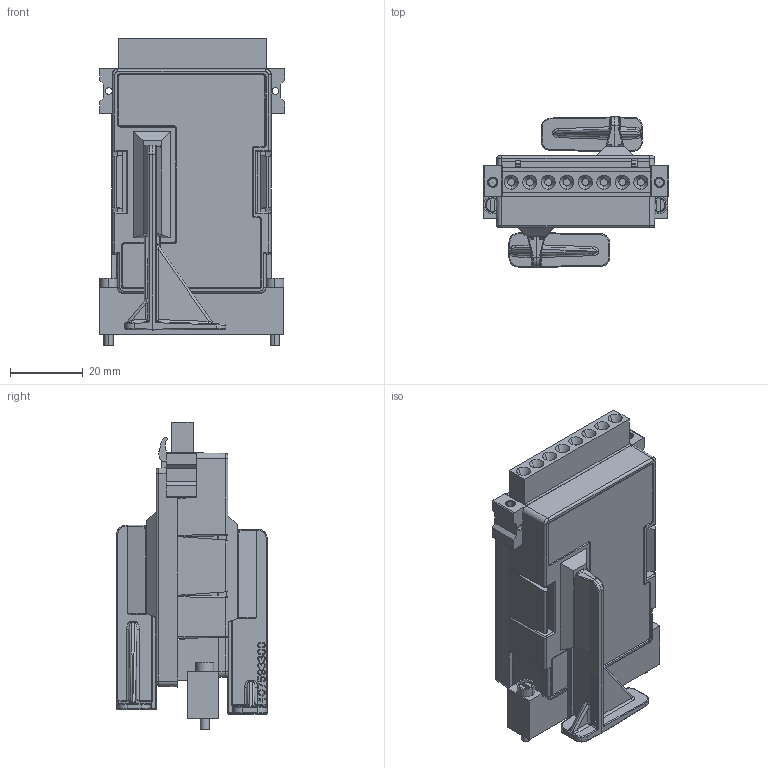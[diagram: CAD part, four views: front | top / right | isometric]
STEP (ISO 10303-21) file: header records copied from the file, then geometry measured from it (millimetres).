
FILE_DESCRIPTION((''),'2;1');
FILE_NAME('2600B-PM-2_ASM','2020-07-28T14:42:19',('dking'),('Keithley Instruments'),'CREO PARAMETRIC BY PTC INC, 2019080','CREO PARAMETRIC BY PTC INC, 2019080','');
FILE_SCHEMA(('AUTOMOTIVE_DESIGN { 1 0 10303 214 1 1 1 1 }'));
Length unit declared in the file: inch
Products named in the file (18): 3895059; 1319306; 131930700; 8781229_ASM; 2005396; 2005395; 2111628; 3353531; TM8090-A; 3353531_ASM; 3353532; TM8091-A; 3353532_ASM; 3353566; TM8103; 3353566_ASM; 4075933; 2600B-PM-2_ASM
Assembly tree (18 placements, depth 3):
  2600B-PM-2_ASM
    8781229_ASM
      3895059
      1319306
      131930700
    2005396
    2005395
    2111628
    3353531_ASM
      3353531
      TM8090-A
    3353532_ASM
      3353532
      TM8091-A
    3353566_ASM
      3353566
      TM8103
    4075933  x2
Bounding box: 50.85 x 41.28 x 84.44 mm (x, y, z)
Volume: 38897.5 mm3; surface area: 57621 mm2
Topology: 11 solids, 17 shells, 2770 faces, 16623 edges, 20831 vertices
Faces by surface type: plane 1957, cylinder 411, extrusion 196, cone 91, bspline 69, torus 28, sphere 18
Entity records: 194598 total; most frequent: CARTESIAN_POINT 67027, PRESENTATION_STYLE_ASSIGNMENT 14868, STYLED_ITEM 14868, CURVE_STYLE 14855, DIRECTION 14339, ORIENTED_EDGE 12026, VECTOR 7821, LINE 7625
